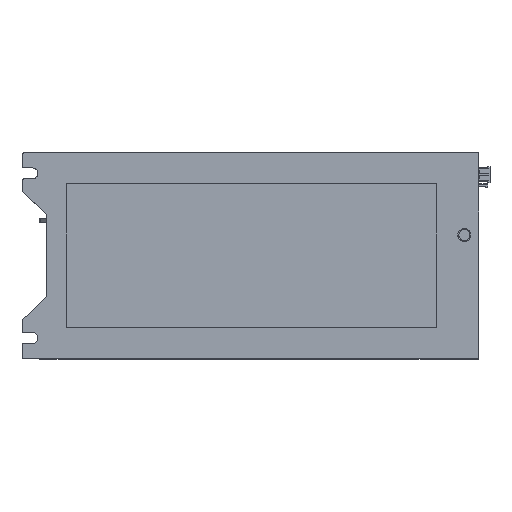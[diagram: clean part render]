
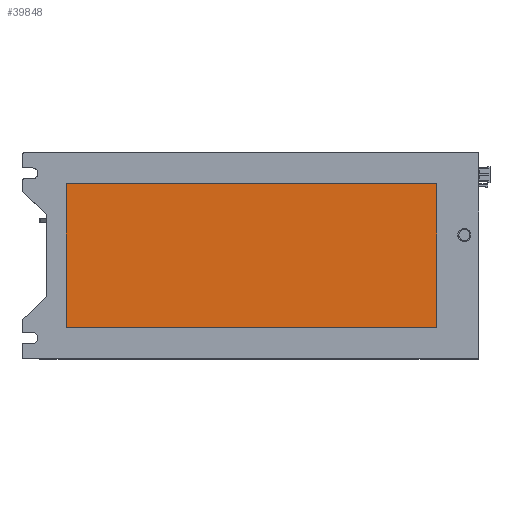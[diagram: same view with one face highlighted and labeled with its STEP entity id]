
A CAD part, top view. The second image highlights one B-rep face of the part: STEP entity #39848.
In plain terms, the highlighted planar face has unit normal (0, 0, 1).
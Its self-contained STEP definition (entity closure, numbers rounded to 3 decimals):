
#2720 = EDGE_CURVE ( 'NONE', #35015, #19357, #26579, .T. ) ;
#4661 = EDGE_CURVE ( 'NONE', #72519, #64327, #66484, .T. ) ;
#6758 = VECTOR ( 'NONE', #49073, 1000. ) ;
#10471 = AXIS2_PLACEMENT_3D ( 'NONE', #23536, #32560, #41293 ) ;
#12478 = ORIENTED_EDGE ( 'NONE', *, *, #2720, .T. ) ;
#19357 = VERTEX_POINT ( 'NONE', #104064 ) ;
#21614 = EDGE_CURVE ( 'NONE', #64327, #35015, #107245, .T. ) ;
#23536 = CARTESIAN_POINT ( 'NONE',  ( 0., 0., 106.5 ) ) ;
#26579 = LINE ( 'NONE', #44487, #66875 ) ;
#32560 = DIRECTION ( 'NONE',  ( 0., 0., 1. ) ) ;
#33982 = ORIENTED_EDGE ( 'NONE', *, *, #21614, .T. ) ;
#34749 = CARTESIAN_POINT ( 'NONE',  ( -200.5, 85., 106.5 ) ) ;
#35015 = VERTEX_POINT ( 'NONE', #74273 ) ;
#39848 = ADVANCED_FACE ( 'NONE', ( #63455 ), #73264, .T. ) ;
#41293 = DIRECTION ( 'NONE',  ( 1., 0., 0. ) ) ;
#42829 = CARTESIAN_POINT ( 'NONE',  ( -200.5, 85., 106.5 ) ) ;
#44487 = CARTESIAN_POINT ( 'NONE',  ( -200.5, 15., 106.5 ) ) ;
#49073 = DIRECTION ( 'NONE',  ( -1., 0., 0. ) ) ;
#53419 = CARTESIAN_POINT ( 'NONE',  ( -20.5, 85., 106.5 ) ) ;
#53500 = DIRECTION ( 'NONE',  ( 1., 0., 0. ) ) ;
#56503 = DIRECTION ( 'NONE',  ( 0., 1., 0. ) ) ;
#62390 = ORIENTED_EDGE ( 'NONE', *, *, #4661, .T. ) ;
#63455 = FACE_OUTER_BOUND ( 'NONE', #104811, .T. ) ;
#64327 = VERTEX_POINT ( 'NONE', #42829 ) ;
#64692 = EDGE_CURVE ( 'NONE', #19357, #72519, #97997, .T. ) ;
#66484 = LINE ( 'NONE', #82149, #6758 ) ;
#66875 = VECTOR ( 'NONE', #53500, 1000. ) ;
#66936 = VECTOR ( 'NONE', #93509, 1000. ) ;
#72519 = VERTEX_POINT ( 'NONE', #53419 ) ;
#73264 = PLANE ( 'NONE',  #10471 ) ;
#74273 = CARTESIAN_POINT ( 'NONE',  ( -200.5, 15., 106.5 ) ) ;
#82149 = CARTESIAN_POINT ( 'NONE',  ( -200.5, 85., 106.5 ) ) ;
#86388 = VECTOR ( 'NONE', #56503, 1000. ) ;
#91934 = ORIENTED_EDGE ( 'NONE', *, *, #64692, .T. ) ;
#93509 = DIRECTION ( 'NONE',  ( 0., -1., 0. ) ) ;
#96804 = CARTESIAN_POINT ( 'NONE',  ( -20.5, 85., 106.5 ) ) ;
#97997 = LINE ( 'NONE', #96804, #86388 ) ;
#104064 = CARTESIAN_POINT ( 'NONE',  ( -20.5, 15., 106.5 ) ) ;
#104811 = EDGE_LOOP ( 'NONE', ( #33982, #12478, #91934, #62390 ) ) ;
#107245 = LINE ( 'NONE', #34749, #66936 ) ;
